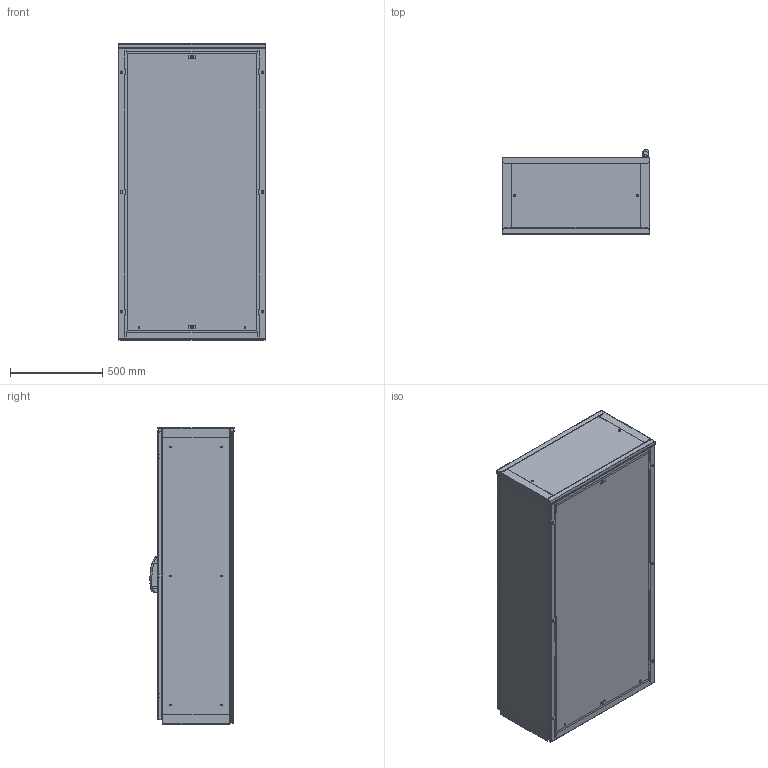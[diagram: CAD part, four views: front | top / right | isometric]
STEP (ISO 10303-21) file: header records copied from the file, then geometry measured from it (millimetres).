
FILE_DESCRIPTION (( 'STEP AP203' ), '1' );
FILE_NAME ('EMOX081604PR.STEP', '2025-06-03T09:23:05', ( '' ), ( '' ), 'SwSTEP 2.0', 'SolidWorks 2022', '' );
FILE_SCHEMA (( 'CONFIG_CONTROL_DESIGN' ));
Length unit declared in the file: millimetre
Products named in the file (9): AR_EMOX_Porta_singola_2.0_0800x1600_ANT; AR_EMOX_Tegolino_0800x0050; AR_EMOX_montaggio_porta_singlola_2.0_0800x1600_ANT_DX; AR_ENUX_nuova_maniglia_mesan; AR_EMOX_Piastra_frontale_2.5_0800x1600; AR_EMOX_struttura_0800x1600x0400; AR_EMOX_Tegolino_0800x0100; EMOX081604PR; AR_EMOX_Retro_singolo_0800x1600
Assembly tree (9 placements, depth 3):
  EMOX081604PR
    AR_EMOX_struttura_0800x1600x0400
    AR_EMOX_montaggio_porta_singlola_2.0_0800x1600_ANT_DX
      AR_EMOX_Porta_singola_2.0_0800x1600_ANT
      AR_ENUX_nuova_maniglia_mesan
    AR_EMOX_Retro_singolo_0800x1600
    AR_EMOX_Tegolino_0800x0050  x2
    AR_EMOX_Tegolino_0800x0100
    AR_EMOX_Piastra_frontale_2.5_0800x1600
Bounding box: 800 x 456.5 x 1609 mm (x, y, z)
Volume: 12499924.4 mm3; surface area: 14306356.7 mm2
Topology: 8 solids, 8 shells, 2198 faces, 6101 edges, 3916 vertices
Faces by surface type: plane 1173, cylinder 900, cone 46, torus 34, bspline 25, sphere 20
Entity records: 74387 total; most frequent: CARTESIAN_POINT 15636, DIRECTION 12022, ORIENTED_EDGE 11858, EDGE_CURVE 5929, AXIS2_PLACEMENT_3D 4041, VECTOR 3940, LINE 3940, VERTEX_POINT 3836
